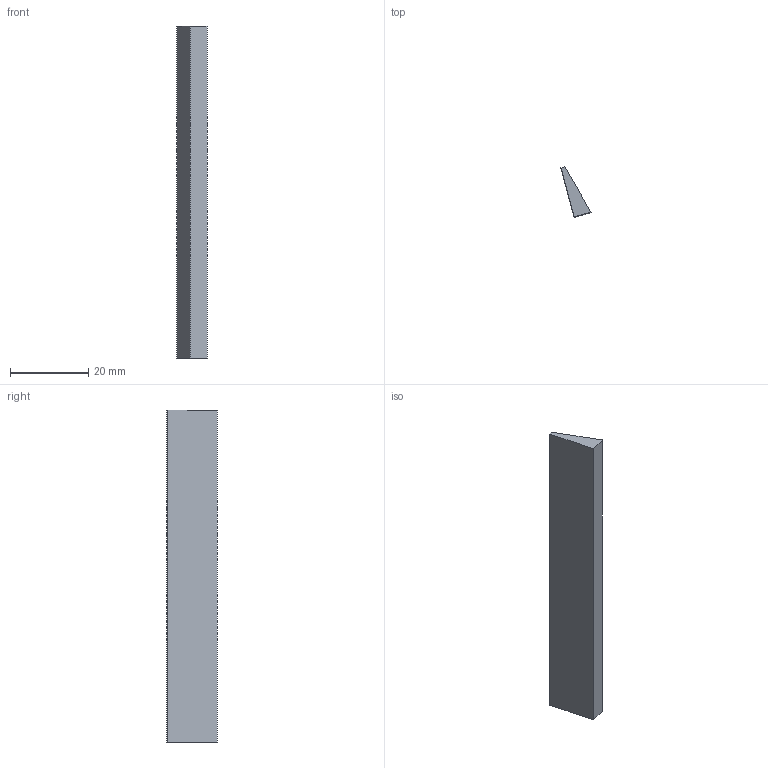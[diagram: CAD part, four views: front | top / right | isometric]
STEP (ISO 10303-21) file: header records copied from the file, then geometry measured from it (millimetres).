
FILE_DESCRIPTION(('FreeCAD Model'),'2;1');
FILE_NAME('Open CASCADE Shape Model','2026-11-05T18:53:51',('FreeCAD'),( 'FreeCAD'),'Open CASCADE STEP processor 7.8','FreeCAD','Unknown');
FILE_SCHEMA(('AUTOMOTIVE_DESIGN { 1 0 10303 214 1 1 1 1 }'));
Length unit declared in the file: millimetre
Products named in the file (1): Open CASCADE STEP translator 7.8 32
Bounding box: 7.71 x 12.82 x 85 mm (x, y, z)
Volume: 3038.8 mm3; surface area: 2788.3 mm2
Topology: 1 solids, 1 shells, 6 faces, 12 edges, 8 vertices
Faces by surface type: plane 6
Entity records: 166 total; most frequent: CARTESIAN_POINT 27, DIRECTION 26, ORIENTED_EDGE 24, EDGE_CURVE 12, LINE 12, VECTOR 12, VERTEX_POINT 8, AXIS2_PLACEMENT_3D 7
